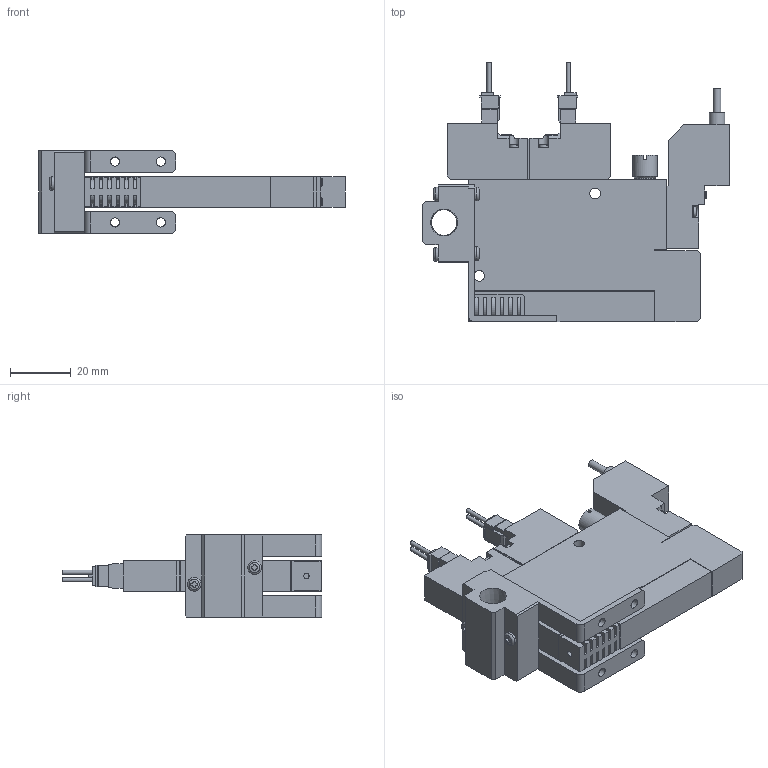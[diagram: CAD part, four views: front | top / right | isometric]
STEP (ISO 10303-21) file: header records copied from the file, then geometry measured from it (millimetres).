
FILE_DESCRIPTION(('STEP AP203'),'1');
FILE_NAME('5SS101_3D.stp','2024-09-04T06:25:49',(' '),(' '),'Spatial InterOp 3D',' ',' ');
FILE_SCHEMA(('CONFIG_CONTROL_DESIGN'));
Length unit declared in the file: millimetre
Products named in the file (5): BSC1M※※V8※5SS101; Solenoid valve S; Pressure Sensor V8; Unit-S; BaseMS10R
Assembly tree (4 placements, depth 2):
  BSC1M※※V8※5SS101
    Solenoid valve S
    Pressure Sensor V8
    Unit-S
    BaseMS10R
Bounding box: 100.5 x 85.05 x 27 mm (x, y, z)
Volume: 54888.8 mm3; surface area: 23926.8 mm2
Topology: 4 solids, 4 shells, 571 faces, 1557 edges, 1030 vertices
Faces by surface type: plane 413, cylinder 131, torus 10, cone 9, sphere 8
Full cylindrical faces by diameter (mm): 1.4 x4, 1.8 x1, 2.5 x5, 3 x8, 3.5 x6, 4 x1, 4.134 x2, 4.5 x6, 5 x1, 5.5 x1, 7 x1, 7.7 x1, 8 x1, 8.422 x1
Entity records: 18279 total; most frequent: CARTESIAN_POINT 3842, ORIENTED_EDGE 2936, DIRECTION 2825, EDGE_CURVE 1468, LINE 1101, VECTOR 1101, VERTEX_POINT 1007, AXIS2_PLACEMENT_3D 862
